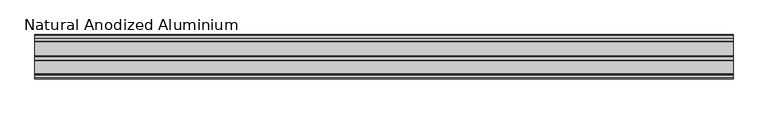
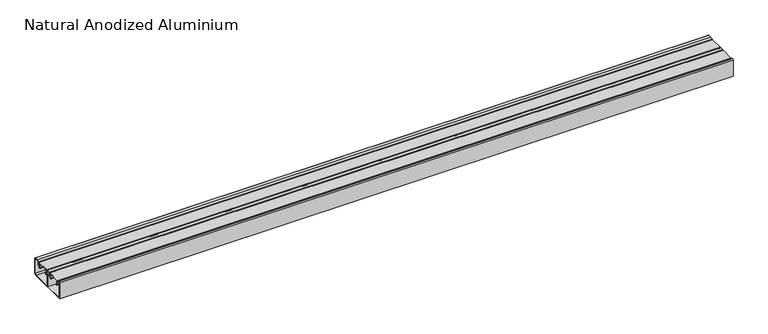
"""IFC4 building model written with IfcOpenShell, lengths in millimetres: proxy geometry, Electrical_Installations_Hager_GBA-Flat-Lid-End-Cap : Natural Anodized Aluminium."""

from ifc_helpers import new_model, si_unit, point, frame, frame_2d, origin, place, context, project, spatial, polyline, circle_curve, trimmed, segment, composite_curve, outline, extrude, source, transform, mapped, element, save


def natural_anodized_aluminium_2c81c147(model_context):
    return source(origin(), model_context, "Body", "SweptSolid", [
        extrude(outline(composite_curve([segment(polyline([(-64.6976563, 54.0894343), (-64.6976563, 2.0), (-2.2476563, 2.0), (-2.2476563, 38.3324137), (-0.2476563, 49.6749773), (-0.2476563, 52.0), (-9.8476563, 52.0), (-9.8476563, 41.5012147), (-14.5382813, 41.5012147), (-14.5382813, 45.748101), (-13.5382813, 45.748101), (-13.5382813, 42.9887147), (-11.6476563, 42.9887147), (-11.6476563, 53.0031102)]), True, "CONTINUOUS"), segment(trimmed(circle_curve(frame_2d((-10.6507665, 53.0031102)), 0.9968898), [point((-11.6476563, 53.0031102))], [point((-10.6507665, 54.0))], False, "CARTESIAN"), True, "CONTINUOUS"), segment(polyline([(-10.6507665, 54.0), (0.7441474, 54.0)]), True, "CONTINUOUS"), segment(trimmed(circle_curve(frame_2d((0.7441474, 52.9918037)), 1.0081963), [point((0.7441474, 54.0))], [point((1.7523437, 52.9918037))], False, "CARTESIAN"), True, "CONTINUOUS"), segment(polyline([(1.7523437, 52.9918037), (1.7523437, 49.5), (0.6591165, 43.3), (3.2523437, 43.3), (3.2523437, 45.7537431), (4.2523437, 45.7537431), (4.2523437, 41.5), (0.3417279, 41.5), (-0.2476563, 38.1574364), (-0.2476563, 2.0), (60.5496526, 2.0), (64.5023437, 5.9526912), (64.5023437, 54.2), (54.8614746, 54.2), (48.5523437, 52.1500391), (48.5523437, 41.5), (44.2523437, 41.5), (44.2523437, 45.7556921), (45.2523437, 45.7556921), (45.2523437, 42.9887147), (46.7523437, 42.9887147), (46.7523437, 53.9835468), (54.4971904, 56.5), (64.8989144, 56.5)]), True, "CONTINUOUS"), segment(trimmed(circle_curve(frame_2d((64.8989144, 54.5965707)), 1.9034293), [point((64.8989144, 56.5))], [point((66.8023437, 54.5965707))], False, "CARTESIAN"), True, "CONTINUOUS"), segment(polyline([(66.8023437, 54.5965707), (66.8023437, 5.0), (61.8023437, 0.0), (-66.9976563, 0.0), (-66.9976563, 54.4045249)]), True, "CONTINUOUS"), segment(trimmed(circle_curve(frame_2d((-64.9278927, 54.4045249)), 2.0697636), [point((-66.9976563, 54.4045249))], [point((-64.2989994, 56.3764312))], False, "CARTESIAN"), True, "CONTINUOUS"), segment(polyline([(-64.2989994, 56.3764312), (-56.8429688, 53.998505), (-56.8429688, 42.9887147), (-54.6789063, 42.9887147), (-54.6789063, 45.7565885), (-53.6789063, 45.7565885), (-53.6789063, 41.5012147), (-58.4476563, 41.5012147), (-58.4476563, 52.0961433), (-64.6976563, 54.0894343)]), True, "CONTINUOUS")], self_intersect=False)), frame((0.0, 0.0, 0.0), z_axis=(1.0, 0.0, 0.0), x_axis=(0.0, 1.0, 0.0)), (0.0, 0.0, 1.0), 2113.0),
        extrude(outline(composite_curve([segment(polyline([(-13.1613464, 52.5816445), (-55.0613464, 52.5816445), (-55.0613464, 49.2816445), (-53.7229555, 49.2816445)]), True, "CONTINUOUS"), segment(trimmed(circle_curve(frame_2d((-53.7229555, 47.1700354)), 2.1116091), [point((-53.7229555, 49.2816445))], [point((-51.6113464, 47.1700354))], False, "CARTESIAN"), True, "CONTINUOUS"), segment(polyline([(-51.6113464, 47.1700354), (-51.6113464, 37.6816445), (-49.7113464, 37.6816445), (-49.7113464, 36.8816445), (-52.6113464, 36.8816445), (-52.6113464, 47.3262929)]), True, "CONTINUOUS"), segment(trimmed(circle_curve(frame_2d((-53.566698, 47.3262929)), 0.9553516), [point((-52.6113464, 47.3262929))], [point((-53.566698, 48.2816445))], True, "CARTESIAN"), True, "CONTINUOUS"), segment(polyline([(-53.566698, 48.2816445), (-55.3644879, 48.2816445), (-55.3644879, 43.8012242), (-56.3660339, 43.8012242), (-56.3660339, 53.0900381)]), True, "CONTINUOUS"), segment(trimmed(circle_curve(frame_2d((-55.456072, 53.0900381)), 0.9099619), [point((-56.3660339, 53.0900381))], [point((-55.456072, 54.0))], False, "CARTESIAN"), True, "CONTINUOUS"), segment(polyline([(-55.456072, 54.0), (-12.9820268, 54.0)]), True, "CONTINUOUS"), segment(trimmed(circle_curve(frame_2d((-12.9820268, 52.9918196)), 1.0081804), [point((-12.9820268, 54.0))], [point((-11.9738464, 52.9918196))], False, "CARTESIAN"), True, "CONTINUOUS"), segment(polyline([(-11.9738464, 52.9918196), (-11.9738464, 43.8012242), (-12.858205, 43.8012242), (-12.858205, 48.2816445), (-14.6025892, 48.2816445)]), True, "CONTINUOUS"), segment(trimmed(circle_curve(frame_2d((-14.6025892, 47.2728873)), 1.0087572), [point((-14.6025892, 48.2816445))], [point((-15.6113464, 47.2728873))], True, "CARTESIAN"), True, "CONTINUOUS"), segment(polyline([(-15.6113464, 47.2728873), (-15.6113464, 36.8816445), (-18.5113464, 36.8816445), (-18.5113464, 37.6816445), (-16.6113464, 37.6816445), (-16.6113464, 47.3197896)]), True, "CONTINUOUS"), segment(trimmed(circle_curve(frame_2d((-14.6494915, 47.3197896)), 1.9618549), [point((-16.6113464, 47.3197896))], [point((-14.6494915, 49.2816445))], False, "CARTESIAN"), True, "CONTINUOUS"), segment(polyline([(-14.6494915, 49.2816445), (-13.1613464, 49.2816445), (-13.1613464, 52.5816445)]), True, "CONTINUOUS")], self_intersect=False)), frame((0.0, 0.0, 0.0), z_axis=(1.0, 0.0, 0.0), x_axis=(0.0, 1.0, 0.0)), (0.0, 0.0, 1.0), 2113.0),
        extrude(outline(composite_curve([segment(polyline([(45.1923672, 52.5816445), (3.2923672, 52.5816445), (3.2923672, 49.2816445), (4.6307581, 49.2816445)]), True, "CONTINUOUS"), segment(trimmed(circle_curve(frame_2d((4.6307581, 47.1700354)), 2.1116091), [point((4.6307581, 49.2816445))], [point((6.7423672, 47.1700354))], False, "CARTESIAN"), True, "CONTINUOUS"), segment(polyline([(6.7423672, 47.1700354), (6.7423672, 37.6816445), (8.6423672, 37.6816445), (8.6423672, 36.8816445), (5.7423672, 36.8816445), (5.7423672, 47.3262929)]), True, "CONTINUOUS"), segment(trimmed(circle_curve(frame_2d((4.7870156, 47.3262929)), 0.9553516), [point((5.7423672, 47.3262929))], [point((4.7870156, 48.2816445))], True, "CARTESIAN"), True, "CONTINUOUS"), segment(polyline([(4.7870156, 48.2816445), (2.9892258, 48.2816445), (2.9892258, 43.8231023), (1.9876797, 43.8231023), (1.9876797, 53.0900381)]), True, "CONTINUOUS"), segment(trimmed(circle_curve(frame_2d((2.8976417, 53.0900381)), 0.9099619), [point((1.9876797, 53.0900381))], [point((2.8976417, 54.0))], False, "CARTESIAN"), True, "CONTINUOUS"), segment(polyline([(2.8976417, 54.0), (45.3716869, 54.0)]), True, "CONTINUOUS"), segment(trimmed(circle_curve(frame_2d((45.3716869, 52.9918196)), 1.0081804), [point((45.3716869, 54.0))], [point((46.3798672, 52.9918196))], False, "CARTESIAN"), True, "CONTINUOUS"), segment(polyline([(46.3798672, 52.9918196), (46.3798672, 43.9733035), (45.4955087, 43.9733035), (45.4955087, 48.2816445), (43.7511244, 48.2816445)]), True, "CONTINUOUS"), segment(trimmed(circle_curve(frame_2d((43.7511244, 47.2728873)), 1.0087572), [point((43.7511244, 48.2816445))], [point((42.7423672, 47.2728873))], True, "CARTESIAN"), True, "CONTINUOUS"), segment(polyline([(42.7423672, 47.2728873), (42.7423672, 36.8816445), (39.8423672, 36.8816445), (39.8423672, 37.6816445), (41.7423672, 37.6816445), (41.7423672, 47.3197896)]), True, "CONTINUOUS"), segment(trimmed(circle_curve(frame_2d((43.7042221, 47.3197896)), 1.9618549), [point((41.7423672, 47.3197896))], [point((43.7042221, 49.2816445))], False, "CARTESIAN"), True, "CONTINUOUS"), segment(polyline([(43.7042221, 49.2816445), (45.1923672, 49.2816445), (45.1923672, 52.5816445)]), True, "CONTINUOUS")], self_intersect=False)), frame((0.0, 0.0, 0.0), z_axis=(1.0, 0.0, 0.0), x_axis=(0.0, 1.0, 0.0)), (0.0, 0.0, 1.0), 2113.0),
    ])


if __name__ == "__main__":
    model = new_model("IFC4")
    model_context = context("Model", 3, world=origin())
    ifc_project = project(units=[si_unit("LENGTHUNIT", "METRE", prefix="MILLI")], contexts=[model_context])
    site = spatial("IfcSite", under=ifc_project)
    building = spatial("IfcBuilding", under=site)
    placement = place(None, origin())
    natural_anodized_aluminium_shape = natural_anodized_aluminium_2c81c147(model_context)
    element("IfcBuildingElementProxy", 1, Name="Electrical_Installations_Hager_GBA-Flat-Lid-End-Cap : Natural Anodized Aluminium", ObjectType="Electrical_Installations_Hager_GBA-Flat-Lid-End-Cap : Natural Anodized Aluminium", at=placement, inside=building, context=model_context, shape_type="MappedRepresentation", body=[
        mapped(natural_anodized_aluminium_shape, transform((0.0, 0.0, 0.0), x_axis=(1.0, 0.0, 0.0), y_axis=(0.0, 1.0, 0.0), z_axis=(0.0, 0.0, 1.0))),
    ])
    save(model, "model.ifc")
